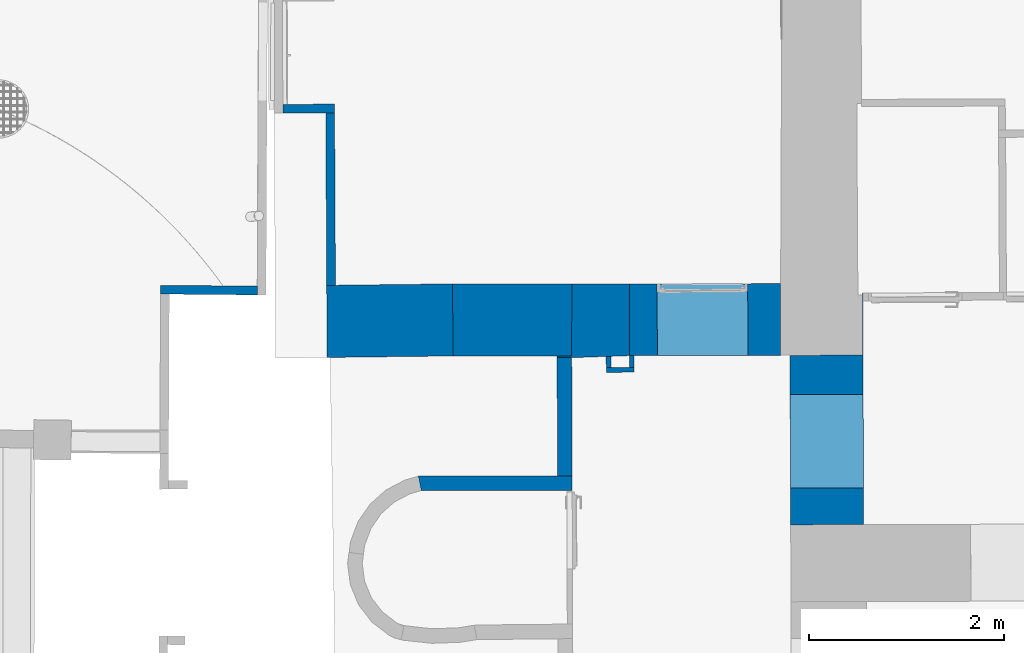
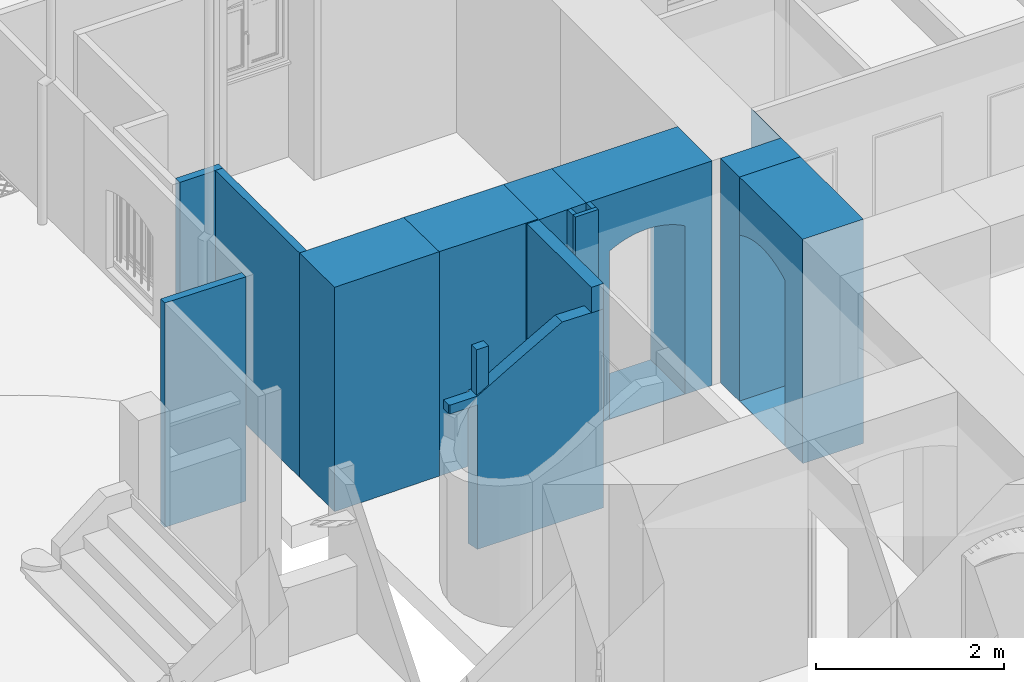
# One storey, part 24 of 133: 14 walls, 2 openings.
"""IFC2X3 building model written with IfcOpenShell, lengths in centimetres."""

from ifc_helpers import new_model, entity, si_unit, converted_unit, point, direction, frame, frame_2d, origin, origin_with_axes, origin_2d_with_axis, place, context, subcontext, project, spatial, polyline, circle_curve, trimmed, segment, composite_curve, rectangle, outline, extrude, clip, bounded_halfspace, shape, material, layer, layer_set, layer_usage, type_object, element, save


model = new_model("IFC2X3")

# Units and contexts
model_context = context("Model", 3, precision=0.0001, world=origin(), true_north=direction((0.225632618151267, 0.974212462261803, 0.0)))
body_context = subcontext(model_context, "Body", "Model", "MODEL_VIEW")
footprint_context = subcontext(model_context, "FootPrint", "Model", "MODEL_VIEW")
profile_context = subcontext(model_context, "Profile", "Model", "MODEL_VIEW")
ifc_project = project(units=[si_unit("LENGTHUNIT", "METRE", prefix="CENTI"), si_unit("AREAUNIT", "SQUARE_METRE", prefix="CENTI"), si_unit("VOLUMEUNIT", "CUBIC_METRE", prefix="CENTI"), converted_unit("PLANEANGLEUNIT", "DEGREE", entity("IfcRatioMeasure", 0.0174532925), si_unit("PLANEANGLEUNIT", "RADIAN"), dimensions=[0, 0, 0, 0, 0, 0, 0])], contexts=[model_context])

# Site, building, storey
site_placement = place(None, origin_with_axes())
site = spatial("IfcSite", under=ifc_project, at=site_placement, Name="Default Site", CompositionType="ELEMENT")
building_placement = place(site_placement, origin_with_axes())
building = spatial("IfcBuilding", under=site, at=building_placement, Name="Default Building", CompositionType="ELEMENT")
storey_placement = place(building_placement, frame((0.0, 0.0, -291.400371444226), z_axis=(0.0, 0.0, 1.0), x_axis=(1.0, 0.0, 0.0)))
storey = spatial("IfcBuildingStorey", under=building, at=storey_placement, Name="Rez-de-Jardin", CompositionType="ELEMENT", Elevation=-291.400371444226)

# Walls
ifc_material = material(Name="<aucun>")
ifc_layer_1 = layer(ifc_material, 9.0)
ifc_layer_set_1 = layer_set([ifc_layer_1], Name="default")
ifc_layer_usage_1 = layer_usage(ifc_layer_set_1, "AXIS2", "POSITIVE", -4.5)
wall_type_1 = type_object("IfcWallType", Name="default 90", PredefinedType="NOTDEFINED", material=ifc_layer_set_1)
wall_1_placement = place(storey_placement, frame((-1191.70332445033, 220.677088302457, 7.72715225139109e-12), z_axis=(0.0, 0.0, 1.0), x_axis=(-0.00529728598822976, 0.999985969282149, 0.0)))
element("IfcWallStandardCase", 1, at=wall_1_placement, inside=storey, type_object=wall_type_1, material=ifc_layer_usage_1, Name="Enveloppe 780458", context=body_context, shape_type="SweptSolid", body=[
    extrude(outline(polyline([(176.96710728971, 4.50000000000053), (-0.061848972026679, 4.49999999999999), (9.01823394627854e-05, -4.50000000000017), (176.96710728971, -4.49999999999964), (176.96710728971, 4.50000000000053)])), frame((0.0, 0.0, -8.88178419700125e-14), z_axis=(0.0, 0.0, 1.0), x_axis=(1.0, 0.0, 0.0)), (0.0, 0.0, 1.0), 291.413221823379),
])
ifc_layer_usage_2 = layer_usage(ifc_layer_set_1, "AXIS2", "POSITIVE", -4.5)
wall_2_placement = place(storey_placement, frame((-1241.16992154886, 401.886779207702, 7.72715225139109e-12), z_axis=(0.0, 0.0, 1.0), x_axis=(0.999986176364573, 0.00525804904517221, 0.0)))
element("IfcWallStandardCase", 2, at=wall_2_placement, inside=storey, type_object=wall_type_1, material=ifc_layer_usage_2, Name="Enveloppe 780141", context=body_context, shape_type="SweptSolid", body=[
    extrude(rectangle(XDim=53.0061600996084, YDim=8.99999999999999, at=origin_2d_with_axis()), frame((26.5030800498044, 5.32907051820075e-13, -4.44089209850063e-14), z_axis=(0.0, 0.0, 1.0), x_axis=(1.0, 1.85693474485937e-14, 0.0)), (0.0, 0.0, 1.0), 291.413221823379),
])
ifc_layer_2 = layer(ifc_material, 15.0)
ifc_layer_set_2 = layer_set([ifc_layer_2], Name="default")
ifc_layer_usage_3 = layer_usage(ifc_layer_set_2, "AXIS2", "POSITIVE", -7.5)
wall_type_2 = type_object("IfcWallType", Name="default 150", PredefinedType="NOTDEFINED", material=ifc_layer_set_2)
wall_3_placement = place(storey_placement, frame((-1099.11486625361, 17.5085098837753, -1.94511073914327e-11), z_axis=(0.0, 0.0, 1.0), x_axis=(0.999999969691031, 0.000246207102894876, 0.0)))
solid = clip(clip(clip(clip(clip(clip(clip(clip(extrude(outline(polyline([(-34.719392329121, 4.8534202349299), (-34.6707573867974, -6.1464722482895), (-33.7742488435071, -7.49999999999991), (154.9140983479, -7.50000000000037), (154.865155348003, 7.49999999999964), (-1.13418345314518, 7.5), (-3.0041746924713, 7.19608568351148), (-2.55435838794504, 4.99563476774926), (-34.719392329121, 4.8534202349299)])), frame((0.0, 0.0, 8.88178419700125e-14), z_axis=(0.0, 0.0, 1.0), x_axis=(1.0, 0.0, 0.0)), (0.0, 0.0, 1.0), 258.903957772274), bounded_halfspace(frame((-34.6707573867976, -6.1464722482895, 187.697835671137), z_axis=(0.0, 0.0, 1.0), x_axis=(0.999990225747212, 0.00442135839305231, 0.0)), True, frame((-34.6707573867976, -6.1464722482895, 187.697835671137), z_axis=(0.0, 0.0, 1.0), x_axis=(1.0, 0.0, 0.0)), polyline([(1.77635683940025e-13, 0.0), (34.3630110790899, 0.151932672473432), (34.670757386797, -1.35352775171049), (0.896508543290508, -1.35352775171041), (1.77635683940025e-13, 0.0)]))), bounded_halfspace(frame((-34.6980385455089, 0.0237789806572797, 187.697835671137), z_axis=(0.0, 0.0, 1.0), x_axis=(-0.0044213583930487, 0.999990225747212, 0.0)), True, frame((-34.6980385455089, 0.0237789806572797, 187.697835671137), z_axis=(0.0, 0.0, 1.0), x_axis=(1.0, 0.0, 0.0)), polyline([(-0.0213537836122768, 4.82964125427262), (23.9724649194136, 4.93572756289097), (17.7821242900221, 3.14263451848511), (0.0272811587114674, -6.17025122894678), (-0.0213537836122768, 4.82964125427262)]))), bounded_halfspace(frame((-2.55435838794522, 4.99563476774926, 187.697835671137), z_axis=(0.0, 0.0, 1.0), x_axis=(0.200278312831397, -0.979739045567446, 0.0)), True, frame((-2.55435838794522, 4.99563476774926, 187.697835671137), z_axis=(0.0, 0.0, 1.0), x_axis=(1.0, 0.0, 0.0)), polyline([(-32.1163989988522, -11.1421070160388), (-14.3615558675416, -1.82922126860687), (-8.17121523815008, -0.0361282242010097), (0.0, 0.0), (2.24661208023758, -10.9901743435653), (-32.1163989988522, -11.1421070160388)]))), bounded_halfspace(frame((-3.00417469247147, 7.19608568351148, 199.095095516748), z_axis=(0.0, 0.0, -1.0), x_axis=(0.200278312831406, -0.979739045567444, 0.0)), True, frame((-3.00417469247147, 7.19608568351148, 199.095095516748), z_axis=(0.0, 0.0, 1.0), x_axis=(1.0, 0.0, 0.0)), polyline([(-1.77635683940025e-13, 0.0), (0.449816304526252, -2.20045091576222), (3.00417469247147, -2.18915707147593), (3.00417469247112, 0.303914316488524), (1.86999123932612, 0.303914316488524), (-1.77635683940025e-13, 0.0)]))), bounded_halfspace(frame((154.865155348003, 7.49999999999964, 258.410402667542), z_axis=(0.0, 0.0, -1.0), x_axis=(-1.0, 2.45056796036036e-15, 0.0)), True, frame((154.865155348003, 7.49999999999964, 258.410402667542), z_axis=(0.0, 0.0, 1.0), x_axis=(1.0, 0.0, 0.0)), polyline([(-15.0000798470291, 2.77555756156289e-14), (-14.9511368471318, -15.0), (0.0489429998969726, -15.0), (0.0, 0.0), (-15.0000798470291, 2.77555756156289e-14)]))), bounded_halfspace(frame((36.3156689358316, -7.50000000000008, 220.502125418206), z_axis=(0.50781071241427, -1.17185991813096e-15, -0.861468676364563), x_axis=(0.00442134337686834, -0.999986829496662, 0.00260625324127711)), True, frame((36.3156689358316, -7.50000000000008, 220.502125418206), z_axis=(0.0, 0.0, 1.0), x_axis=(1.0, 0.0, 0.0)), polyline([(-36.3156689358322, 8.74300631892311e-14), (-1.77635683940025e-13, -1.38777878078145e-15), (-1.77635683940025e-13, 15.0), (-36.315668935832, 15.0000000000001), (-36.3156689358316, 12.5069286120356), (-21.7686257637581, 12.5712469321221), (-21.7199908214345, 1.57135444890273), (-36.3156689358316, 1.50682109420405), (-36.3156689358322, 8.74300631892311e-14)]))), bounded_halfspace(frame((-0.0999990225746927, 5.00648647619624, 258.410402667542), z_axis=(0.0, 0.0, -1.0), x_axis=(0.00442135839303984, -0.999990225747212, 0.0)), True, frame((-0.0999990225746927, 5.00648647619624, 258.410402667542), z_axis=(0.0, 0.0, 1.0), x_axis=(1.0, 0.0, 0.0)), polyline([(0.0, -2.77555756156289e-15), (0.0486349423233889, -10.9998924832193), (14.6956771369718, -10.9351320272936), (14.6470421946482, 0.0647604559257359), (0.0, -2.77555756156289e-15)]))), bounded_halfspace(frame((-0.307746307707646, -5.99453957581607, 199.095095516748), z_axis=(0.0, 0.0, -1.0), x_axis=(0.999990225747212, 0.00442135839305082, 0.0)), True, frame((-0.307746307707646, -5.99453957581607, 199.095095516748), z_axis=(0.0, 0.0, 1.0), x_axis=(1.0, 0.0, 0.0)), polyline([(-2.24661208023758, 10.9901743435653), (0.0, 0.0), (0.256382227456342, 0.00113356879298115), (0.207747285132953, 11.0010260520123), (-2.24661208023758, 10.9901743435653)])))
element("IfcWallStandardCase", 3, at=wall_3_placement, inside=storey, type_object=wall_type_2, material=ifc_layer_usage_3, Name="Enveloppe 78761", context=body_context, shape_type="Clipping", body=[
    clip(clip(clip(clip(clip(clip(clip(solid, bounded_halfspace(frame((-1.77635683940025e-13, -5.99317890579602, 199.095095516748), z_axis=(0.0, 0.0, -1.0), x_axis=(-0.999990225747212, -0.00442135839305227, 0.0)), True, frame((-1.77635683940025e-13, -5.99317890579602, 199.095095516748), z_axis=(0.0, 0.0, 1.0), x_axis=(1.0, 0.0, 0.0)), polyline([(-0.307746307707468, -0.00136067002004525), (-3.5527136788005e-13, -1.50682109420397), (1.77635683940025e-13, 0.0), (-0.307746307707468, -0.00136067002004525)]))), bounded_halfspace(frame((104.100019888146, 7.49999999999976, 258.903957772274), z_axis=(-0.0136624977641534, 3.22338388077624e-17, -0.999906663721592), x_axis=(-0.999906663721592, 2.33683515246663e-15, 0.0136624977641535)), True, frame((104.100019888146, 7.49999999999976, 258.903957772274), z_axis=(0.0, 0.0, 1.0), x_axis=(1.0, 0.0, 0.0)), polyline([(0.0, -15.0), (35.8139986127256, -15.0000000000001), (35.7650556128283, -9.43689570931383e-14), (0.0, 0.0), (0.0, -15.0)]))), bounded_halfspace(frame((62.212389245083, 7.49999999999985, 235.300489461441), z_axis=(0.496144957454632, -1.18473481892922e-15, -0.868239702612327), x_axis=(-0.868239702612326, 2.25934180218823e-15, -0.496144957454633)), True, frame((62.212389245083, 7.49999999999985, 235.300489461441), z_axis=(0.0, 0.0, 1.0), x_axis=(1.0, 0.0, 0.0)), polyline([(-25.8967203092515, -14.9999999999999), (0.0, -15.0), (0.0, 0.0), (-25.8967203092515, 6.66133814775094e-14), (-25.8967203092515, -14.9999999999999)]))), bounded_halfspace(frame((104.100019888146, 7.49999999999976, 258.903957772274), z_axis=(0.490919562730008, -1.11077867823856e-15, -0.871204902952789), x_axis=(-0.871204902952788, 1.97037481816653e-15, -0.49091956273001)), True, frame((104.100019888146, 7.49999999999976, 258.903957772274), z_axis=(0.0, 0.0, 1.0), x_axis=(1.0, 0.0, 0.0)), polyline([(-41.8876306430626, -14.9999999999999), (0.0, -15.0), (0.0, 0.0), (-41.8876306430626, 9.43689570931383e-14), (-41.8876306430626, -14.9999999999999)]))), bounded_halfspace(frame((-33.7742488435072, -7.49999999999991, 199.095095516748), z_axis=(0.0, 0.0, -1.0), x_axis=(1.0, -2.37792641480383e-15, 0.0)), True, frame((-33.7742488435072, -7.49999999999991, 199.095095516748), z_axis=(0.0, 0.0, 1.0), x_axis=(1.0, 0.0, 0.0)), polyline([(-0.896508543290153, 1.35352775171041), (1.77635683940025e-13, 0.0), (33.7742488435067, -8.04911692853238e-14), (33.4665025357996, 1.50546042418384), (-0.896508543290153, 1.35352775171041)]))), bounded_halfspace(frame((-34.6707573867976, -6.1464722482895, 199.095095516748), z_axis=(0.0, 0.0, -1.0), x_axis=(0.885570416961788, 0.46450515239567, 0.0)), True, frame((-34.6707573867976, -6.1464722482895, 199.095095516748), z_axis=(0.0, 0.0, 1.0), x_axis=(1.0, 0.0, 0.0)), polyline([(-0.0486349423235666, 10.9998924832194), (1.77635683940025e-13, 0.0), (17.7548431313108, 9.31288574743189), (23.9451837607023, 11.1059787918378), (-0.0486349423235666, 10.9998924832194)]))), bounded_halfspace(frame((-10.7255736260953, 4.95950654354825, 199.095095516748), z_axis=(0.0, 0.0, -1.0), x_axis=(-0.960516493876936, -0.278223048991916, 0.0)), True, frame((-10.7255736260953, 4.95950654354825, 199.095095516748), z_axis=(0.0, 0.0, 1.0), x_axis=(1.0, 0.0, 0.0)), polyline([(-23.9451837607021, -11.1059787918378), (10.4178273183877, -10.9540461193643), (8.17121523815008, 0.0361282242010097), (0.0, 0.0), (-6.1903406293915, -1.79309304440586), (-23.9451837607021, -11.1059787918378)]))),
])
ifc_layer_usage_4 = layer_usage(ifc_layer_set_2, "AXIS2", "POSITIVE", -7.5)
wall_4_placement = place(storey_placement, frame((-951.698007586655, 9.77175338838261, -1.94511073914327e-11), z_axis=(0.0, 0.0, 1.0), x_axis=(-0.00350905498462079, 0.999993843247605, 0.0)))
element("IfcWallStandardCase", 4, at=wall_4_placement, inside=storey, type_object=wall_type_2, material=ifc_layer_usage_4, Name="Enveloppe 52893", context=body_context, shape_type="Clipping", body=[
    clip(clip(clip(extrude(outline(polyline([(136.673299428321, 7.49999999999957), (-2.77555756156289e-15, 7.50000000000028), (-2.77555756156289e-15, -7.49999999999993), (136.607684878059, -7.50000000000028), (136.673299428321, 7.49999999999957)])), frame((0.0, 0.0, 8.88178419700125e-14), z_axis=(0.0, 0.0, 1.0), x_axis=(1.0, 0.0, 0.0)), (0.0, 0.0, 1.0), 291.413221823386), bounded_halfspace(frame((-2.77555756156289e-15, -7.49999999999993, 258.410402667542), z_axis=(0.0, 0.0, 1.0), x_axis=(8.63024929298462e-17, 1.0, 0.0)), True, frame((-2.77555756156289e-15, -7.49999999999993, 258.410402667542), z_axis=(0.0, 0.0, 1.0), x_axis=(1.0, 0.0, 0.0)), polyline([(0.0, 0.0), (0.0, 5.50000000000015), (0.266527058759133, 5.50000000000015), (0.248581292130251, 0.0), (0.0, 0.0)]))), bounded_halfspace(frame((-2.77555756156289e-15, 7.50000000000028, 258.410402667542), z_axis=(0.0, 0.0, 1.0), x_axis=(1.0, -3.81231504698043e-14, 0.0)), True, frame((-2.77555756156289e-15, 7.50000000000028, 258.410402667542), z_axis=(0.0, 0.0, 1.0), x_axis=(1.0, 0.0, 0.0)), polyline([(0.0, -9.50000000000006), (0.0, 0.0), (0.297524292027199, -3.5527136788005e-13), (0.266527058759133, -9.50000000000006), (0.0, -9.50000000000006)]))), bounded_halfspace(frame((15.248661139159, -7.50000000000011, 258.410402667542), z_axis=(0.0, 0.0, 1.0), x_axis=(-1.0, 9.58087775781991e-15, 0.0)), True, frame((15.248661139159, -7.50000000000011, 258.410402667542), z_axis=(0.0, 0.0, 1.0), x_axis=(1.0, 0.0, 0.0)), polyline([(-15.0000798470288, 1.77635683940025e-13), (-14.9511368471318, 15.0), (0.0489429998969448, 14.9999999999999), (1.11022302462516e-14, 0.0), (-15.0000798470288, 1.77635683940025e-13)]))),
])
ifc_layer_3 = layer(ifc_material, 74.0)
ifc_layer_set_3 = layer_set([ifc_layer_3], Name="default")
ifc_layer_usage_5 = layer_usage(ifc_layer_set_3, "AXIS2", "POSITIVE", -37.0)
wall_type_3 = type_object("IfcWallType", Name="default 740", PredefinedType="NOTDEFINED", material=ifc_layer_set_3)
wall_5_placement = place(storey_placement, frame((-945.057302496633, 185.063519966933, -1.94511073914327e-11), z_axis=(0.0, 0.0, 1.0), x_axis=(-0.999999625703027, 0.000865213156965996, 0.0)))
element("IfcWallStandardCase", 5, at=wall_5_placement, inside=storey, type_object=wall_type_3, material=ifc_layer_usage_5, Name="Enveloppe 65426", context=body_context, shape_type="SweptSolid", body=[
    extrude(outline(polyline([(122.155342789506, -36.9936893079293), (121.190074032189, 37.0000000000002), (-0.413332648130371, 37.0), (-0.413332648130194, -37.0000000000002), (122.155342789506, -36.9936893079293)])), frame((0.0, 0.0, 1.33226762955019e-13), z_axis=(0.0, 0.0, 1.0), x_axis=(1.0, 0.0, 0.0)), (0.0, 0.0, 1.0), 291.413221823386),
])
ifc_layer_usage_6 = layer_usage(ifc_layer_set_3, "AXIS2", "POSITIVE", -37.0)
wall_6_placement = place(storey_placement, frame((-1186.76586716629, 183.703600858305, -1.94511073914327e-11), z_axis=(0.0, 0.0, 1.0), x_axis=(0.999925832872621, 0.0121790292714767, 0.0)))
element("IfcWallStandardCase", 6, at=wall_6_placement, inside=storey, type_object=wall_type_3, material=ifc_layer_usage_6, Name="Enveloppe 70598", context=body_context, shape_type="SweptSolid", body=[
    extrude(outline(polyline([(-8.98710897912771, 37.0000000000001), (-9.49638647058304, -37.0), (120.04480249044, -37.0000000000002), (120.04480249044, 36.9999999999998), (-8.98710897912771, 37.0000000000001)])), frame((0.0, 0.0, 1.77635683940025e-13), z_axis=(0.0, 0.0, 1.0), x_axis=(1.0, 0.0, 0.0)), (0.0, 0.0, 1.0), 291.413221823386),
])
ifc_layer_4 = layer(ifc_material, 5.0)
ifc_layer_set_4 = layer_set([ifc_layer_4], Name="default")
ifc_layer_usage_7 = layer_usage(ifc_layer_set_4, "AXIS2", "POSITIVE", -2.5)
wall_type_4 = type_object("IfcWallType", Name="default 50", PredefinedType="NOTDEFINED", material=ifc_layer_set_4)
wall_7_placement = place(storey_placement, frame((-906.396541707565, 131.602256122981, -1.94511073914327e-11), z_axis=(0.0, 0.0, 1.0), x_axis=(-0.0387456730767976, 0.999249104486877, 0.0)))
element("IfcWallStandardCase", 7, at=wall_7_placement, inside=storey, type_object=wall_type_4, material=ifc_layer_usage_7, Name="Enveloppe 70804", context=body_context, shape_type="SweptSolid", body=[
    extrude(outline(polyline([(16.1241816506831, 2.50000000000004), (4.80023597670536, 2.49999999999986), (4.64454089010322, -2.49999999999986), (16.0241816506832, -2.49999999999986), (16.0241816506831, -0.0226195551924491), (16.1241816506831, 2.50000000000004)])), frame((0.0, 0.0, 4.44089209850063e-14), z_axis=(0.0, 0.0, 1.0), x_axis=(1.0, 0.0, 0.0)), (0.0, 0.0, 1.0), 291.413221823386),
])
ifc_layer_usage_8 = layer_usage(ifc_layer_set_4, "AXIS2", "POSITIVE", -2.5)
wall_8_placement = place(storey_placement, frame((-907.406703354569, 133.814717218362, -1.94511073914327e-11), z_axis=(0.0, 0.0, 1.0), x_axis=(0.999970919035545, 0.00762634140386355, 0.0)))
element("IfcWallStandardCase", 8, at=wall_8_placement, inside=storey, type_object=wall_type_4, material=ifc_layer_usage_8, Name="Enveloppe 52881", context=body_context, shape_type="SweptSolid", body=[
    extrude(outline(polyline([(-1.65493176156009, 2.49999999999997), (-1.49923667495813, -2.49999999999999), (26.9013605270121, -2.50000000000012), (26.901360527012, 2.49999999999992), (-1.65493176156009, 2.49999999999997)])), frame((0.0, 0.0, 4.44089209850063e-14), z_axis=(0.0, 0.0, 1.0), x_axis=(1.0, 0.0, 0.0)), (0.0, 0.0, 1.0), 291.413221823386),
])
ifc_layer_usage_9 = layer_usage(ifc_layer_set_4, "AXIS2", "POSITIVE", -2.5)
wall_9_placement = place(storey_placement, frame((-882.987681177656, 131.591957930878, -1.94511073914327e-11), z_axis=(0.0, 0.0, 1.0), x_axis=(-0.00762634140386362, 0.999970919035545, 0.0)))
element("IfcWallStandardCase", 9, at=wall_9_placement, inside=storey, type_object=wall_type_4, material=ifc_layer_usage_9, Name="Enveloppe 55597", context=body_context, shape_type="SweptSolid", body=[
    extrude(outline(polyline([(16.7927221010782, 2.50000000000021), (4.90892244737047, 2.49999999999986), (4.90892244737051, -2.50000000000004), (16.7710401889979, -2.49999999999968), (16.7927221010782, 2.50000000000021)])), frame((0.0, 0.0, 8.88178419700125e-14), z_axis=(0.0, 0.0, 1.0), x_axis=(1.0, 0.0, 0.0)), (0.0, 0.0, 1.0), 291.413221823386),
])

# Wall, opening
ifc_layer_5 = layer(ifc_material, 73.5)
ifc_layer_set_5 = layer_set([ifc_layer_5], Name="default")
ifc_layer_usage_10 = layer_usage(ifc_layer_set_5, "AXIS2", "POSITIVE", -36.75)
wall_type_5 = type_object("IfcWallType", Name="default 735", PredefinedType="NOTDEFINED", material=ifc_layer_set_5)
wall_10_placement = place(storey_placement, frame((-883.313646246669, 185.12289857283, -1.94511073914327e-11), z_axis=(0.0, 0.0, 1.0), x_axis=(0.999994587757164, 0.00329005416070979, 0.0)))
wall_10 = element("IfcWallStandardCase", 10, at=wall_10_placement, inside=storey, type_object=wall_type_5, material=ifc_layer_usage_10, Name="Enveloppe 55625", context=body_context, shape_type="SweptSolid", body=[
    extrude(outline(polyline([(-2.42295186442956, -36.75), (152.651319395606, -36.7500000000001), (153.19741024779, 36.7499999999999), (-2.11818906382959, 36.75), (-2.42295186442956, -36.75)])), frame((0.0, 0.0, 1.33226762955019e-13), z_axis=(0.0, 0.0, 1.0), x_axis=(1.0, 0.0, 0.0)), (0.0, 0.0, 1.0), 291.413221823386),
])
opening_1_placement = place(wall_10_placement, frame((26.4096536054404, 2.8421709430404e-14, 0.601514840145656), z_axis=(0.0, 0.0, 1.0), x_axis=(-1.0, 5.58147278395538e-16, 0.0)))
cartesian_point_1 = entity("IfcCartesianPoint", [0.0, 0.0, 218.0])
cartesian_point_2 = entity("IfcCartesianPoint", [-93.0000000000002, 4.44089209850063e-14, 218.0])
cartesian_point_3 = entity("IfcCartesianPoint", [-93.0000000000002, -36.75])
element("IfcOpeningElement", 11, at=opening_1_placement, cuts=wall_10, Name="4294966339_12", ObjectType="Opening", shapes=[
    shape(body_context, "Body", "SweptSolid", [extrude(outline(composite_curve([segment(polyline([(1.77635683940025e-13, 218.0), (1.77635683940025e-13, 4.44089209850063e-14), (93.0000000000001, 4.44089209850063e-14), (93.0000000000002, 218.0)]), True, "CONTINUOUS"), segment(trimmed(circle_curve(frame_2d((46.5000000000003, 137.812812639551), x_axis=(1.0, 0.0)), 92.694309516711), [point((93.0000000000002, 218.0))], [point((1.77635683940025e-13, 218.0))], True, "CARTESIAN"), True, "CONTINUOUS")], self_intersect=False)), frame((0.0, -46.75, 0.0), z_axis=(0.0, 1.0, 0.0), x_axis=(-1.0, 0.0, 0.0)), (0.0, 0.0, 1.0), 93.5)]),
    shape(profile_context, "Profile", "GeometricCurveSet", [entity("IfcGeometricCurveSet", [entity("IfcCompositeCurve", [entity("IfcCompositeCurveSegment", "CONTINUOUS", True, entity("IfcPolyline", [cartesian_point_1, entity("IfcCartesianPoint", [0.0, 0.0, 4.44089209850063e-14]), entity("IfcCartesianPoint", [-93.0000000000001, 4.44089209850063e-14, 4.44089209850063e-14]), cartesian_point_2])), entity("IfcCompositeCurveSegment", "CONTINUOUS", True, entity("IfcTrimmedCurve", entity("IfcCircle", entity("IfcAxis2Placement3D", entity("IfcCartesianPoint", [-46.5000000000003, 0.0, 137.812812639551]), entity("IfcDirection", [4.77515279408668e-16, 1.0, 1.77534529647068e-15]), entity("IfcDirection", [1.0, -4.77515279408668e-16, 0.0])), 92.694309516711), [cartesian_point_2], [cartesian_point_1], True, "CARTESIAN"))], False)])]),
    shape(footprint_context, "FootPrint", "GeometricCurveSet", [entity("IfcGeometricCurveSet", [entity("IfcPolyline", [cartesian_point_3, entity("IfcCartesianPoint", [-1.77635683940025e-13, -36.75]), entity("IfcCartesianPoint", [0.0, 36.75]), entity("IfcCartesianPoint", [-93.0000000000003, 36.75]), cartesian_point_3])])]),
])

# Wall
ifc_layer_usage_11 = layer_usage(ifc_layer_set_5, "AXIS2", "POSITIVE", -36.75)
wall_11_placement = place(storey_placement, frame((-883.598120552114, 185.260344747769, -1.94511073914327e-11), z_axis=(0.0, 0.0, 1.0), x_axis=(-0.999999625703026, 0.000865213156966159, 0.0)))
element("IfcWallStandardCase", 12, at=wall_11_placement, inside=storey, type_object=wall_type_5, material=ifc_layer_usage_11, Name="Enveloppe 55598", context=body_context, shape_type="SweptSolid", body=[
    extrude(outline(polyline([(61.0456559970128, 37.2500000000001), (76.0530532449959, 37.2500000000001), (76.0457995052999, 38.9082616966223), (61.0456559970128, 38.9082616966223), (25.8887073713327, 37.6652920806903), (23.3641065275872, 37.6652920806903), (20.8881755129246, 37.5671620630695), (20.8882434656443, 37.4886233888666), (1.98628351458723, 36.8202248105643), (1.98628351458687, -36.6036811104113), (-0.000119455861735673, -36.6119348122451), (0.0, -36.75), (20.8917835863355, -36.7500000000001), (61.045655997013, -36.7500000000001), (61.0456559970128, 37.2500000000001)])), frame((0.0, 0.0, 8.88178419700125e-14), z_axis=(0.0, 0.0, 1.0), x_axis=(1.0, 0.0, 0.0)), (0.0, 0.0, 1.0), 291.413221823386),
])

# Wall, opening
ifc_layer_6 = layer(ifc_material, 74.5)
ifc_layer_set_6 = layer_set([ifc_layer_6], Name="default")
ifc_layer_usage_12 = layer_usage(ifc_layer_set_6, "AXIS2", "POSITIVE", -37.25)
wall_type_6 = type_object("IfcWallType", Name="default 745", PredefinedType="NOTDEFINED", material=ifc_layer_set_6)
wall_12_placement = place(storey_placement, frame((-682.331002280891, -104.127295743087, -1.94511073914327e-11), z_axis=(0.0, 0.0, 1.0), x_axis=(-0.00403556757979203, 0.999991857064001, 0.0)))
wall_12 = element("IfcWallStandardCase", 13, at=wall_12_placement, inside=storey, type_object=wall_type_6, material=ifc_layer_usage_12, Name="Enveloppe 70923", context=body_context, shape_type="SweptSolid", body=[
    extrude(outline(polyline([(212.640666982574, 37.25), (79.0829185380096, 37.2499999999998), (78.9992815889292, -37.4357576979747), (212.640666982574, -37.7500000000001), (212.640666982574, 37.25)])), frame((0.0, 0.0, 4.44089209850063e-14), z_axis=(0.0, 0.0, 1.0), x_axis=(1.0, 0.0, 0.0)), (0.0, 0.0, 1.0), 291.413221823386),
])
opening_2_placement = place(wall_12_placement, frame((116.640666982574, 0.0, 0.546044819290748), z_axis=(0.0, 0.0, 1.0), x_axis=(1.0, -2.02095284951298e-16, 0.0)))
cartesian_point_4 = entity("IfcCartesianPoint", [2.22044604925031e-14, -8.88178419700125e-14, 215.0])
cartesian_point_5 = entity("IfcCartesianPoint", [96.0, 0.0, 215.0])
cartesian_point_6 = entity("IfcCartesianPoint", [96.0, 37.25])
element("IfcOpeningElement", 14, at=opening_2_placement, cuts=wall_12, Name="Baie 78745", ObjectType="Opening", shapes=[
    shape(body_context, "Body", "SweptSolid", [extrude(outline(composite_curve([segment(polyline([(1.38777878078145e-14, 215.0), (-8.32667268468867e-15, 0.0), (96.0, 0.0), (96.0, 215.0)]), True, "CONTINUOUS"), segment(trimmed(circle_curve(frame_2d((48.0, 131.124686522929), x_axis=(1.0, 0.0)), 96.6388545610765), [point((96.0, 215.0))], [point((1.38777878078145e-14, 215.0))], True, "CARTESIAN"), True, "CONTINUOUS")], self_intersect=False)), frame((0.0, 47.75, 0.0), z_axis=(0.0, -1.0, 0.0), x_axis=(1.0, 0.0, 0.0)), (0.0, 0.0, 1.0), 95.0)]),
    shape(profile_context, "Profile", "GeometricCurveSet", [entity("IfcGeometricCurveSet", [entity("IfcCompositeCurve", [entity("IfcCompositeCurveSegment", "CONTINUOUS", True, entity("IfcPolyline", [cartesian_point_4, entity("IfcCartesianPoint", [0.0, -8.88178419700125e-14, 0.0]), entity("IfcCartesianPoint", [96.0, 0.0, 0.0]), cartesian_point_5])), entity("IfcCompositeCurveSegment", "CONTINUOUS", True, entity("IfcTrimmedCurve", entity("IfcCircle", entity("IfcAxis2Placement3D", entity("IfcCartesianPoint", [48.0, 0.0, 131.124686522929]), entity("IfcDirection", [9.25185853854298e-16, -1.0, 3.47935738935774e-15]), entity("IfcDirection", [-1.0, -9.25185853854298e-16, 0.0])), 96.6388545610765), [cartesian_point_5], [cartesian_point_4], True, "CARTESIAN"))], False)])]),
    shape(footprint_context, "FootPrint", "GeometricCurveSet", [entity("IfcGeometricCurveSet", [entity("IfcPolyline", [cartesian_point_6, entity("IfcCartesianPoint", [-7.49400541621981e-14, 37.25]), entity("IfcCartesianPoint", [-4.16333634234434e-14, -37.5242670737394]), entity("IfcCartesianPoint", [96.0, -37.75]), cartesian_point_6])])]),
])

# Walls
ifc_layer_7 = layer(ifc_material, 75.0)
ifc_layer_set_7 = layer_set([ifc_layer_7], Name="default")
ifc_layer_usage_13 = layer_usage(ifc_layer_set_7, "AXIS2", "POSITIVE", -37.5)
wall_type_7 = type_object("IfcWallType", Name="default 750", PredefinedType="NOTDEFINED", material=ifc_layer_set_7)
wall_13_placement = place(storey_placement, frame((-682.939130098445, 108.512648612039, -1.94511073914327e-11), z_axis=(0.0, 0.0, 1.0), x_axis=(-0.00403556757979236, 0.999991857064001, 0.0)))
element("IfcWallStandardCase", 15, at=wall_13_placement, inside=storey, type_object=wall_type_7, material=ifc_layer_usage_13, Name="Enveloppe 53053", context=body_context, shape_type="SweptSolid", body=[
    extrude(outline(polyline([(40.3911326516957, 37.5000000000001), (0.0, 37.5), (-4.44089209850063e-14, -37.5000000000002), (104.002513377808, -37.4999986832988), (104.002733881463, -37.4453590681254), (40.3911326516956, -36.9253106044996), (40.3911326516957, 37.5000000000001)])), frame((0.0, 0.0, 8.88178419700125e-14), z_axis=(0.0, 0.0, 1.0), x_axis=(1.0, 0.0, 0.0)), (0.0, 0.0, 1.0), 291.413221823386),
])
ifc_layer_usage_14 = layer_usage(ifc_layer_set_1, "AXIS2", "POSITIVE", -4.5)
wall_type_8 = type_object("IfcWallType", Name="default 90", PredefinedType="NOTDEFINED", material=ifc_layer_set_1)
wall_14_placement = place(storey_placement, frame((-1267.49302243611, 215.280201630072, -1.94511073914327e-11), z_axis=(0.0, 0.0, 1.0), x_axis=(-0.999955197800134, 0.00946585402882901, 0.0)))
element("IfcWallStandardCase", 16, at=wall_14_placement, inside=storey, type_object=wall_type_8, material=ifc_layer_usage_14, Name="Enveloppe 310401", context=body_context, shape_type="SweptSolid", body=[
    extrude(outline(polyline([(99.2211857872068, 4.50000000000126), (-0.0375606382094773, 4.49999999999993), (0.00372618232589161, -4.49999999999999), (99.2641062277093, -4.49999999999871), (99.2211857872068, 4.50000000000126)])), frame((0.0, 0.0, 4.44089209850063e-14), z_axis=(0.0, 0.0, 1.0), x_axis=(1.0, 0.0, 0.0)), (0.0, 0.0, 1.0), 291.413221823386),
])

save(model, "model.ifc")
